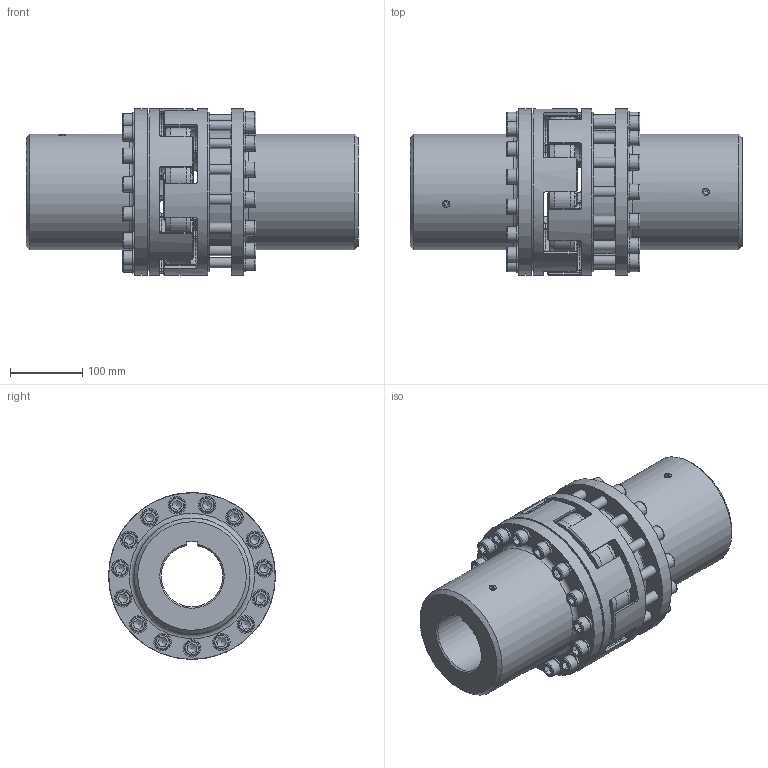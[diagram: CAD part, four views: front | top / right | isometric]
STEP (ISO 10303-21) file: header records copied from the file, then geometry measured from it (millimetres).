
FILE_DESCRIPTION(/* description */ (''),/* implementation_level */ '2;1');
FILE_NAME(/* name */ 'C:\Users\milman01\Desktop\step file\xxxxxx\34428.stp',/* time_stamp */ '2017-03-15T10:48:47+01:00',/* author */ ('milman01'),/* organization */ (''),/* preprocessor_version */ 'ST-DEVELOPER v16.1',/* originating_system */ 'Autodesk Inventor 2016',/* authorisation */ '');
FILE_SCHEMA (('AUTOMOTIVE_DESIGN { 1 0 10303 214 3 1 1 }'));
Length unit declared in the file: millimetre
Products named in the file (1): 46838_Shrinkwrap_1
Bounding box: 458.5 x 230 x 230 mm (x, y, z)
Volume: 8519543 mm3; surface area: 869553.8 mm2
Topology: 3 solids, 28 shells, 1164 faces, 2729 edges, 1696 vertices
Faces by surface type: plane 453, cylinder 342, cone 244, torus 125
Full cylindrical faces by diameter (mm): 10.106 x2, 11.835 x30, 14 x30, 15 x30, 21 x30, 24 x30, 113 x1, 114.7 x2, 160 x2, 170 x3, 220 x2, 230 x4
Entity records: 31884 total; most frequent: CARTESIAN_POINT 6058, DIRECTION 5398, ORIENTED_EDGE 4540, EDGE_CURVE 2270, AXIS2_PLACEMENT_3D 2240, EDGE_LOOP 1608, VERTEX_POINT 1540, STYLED_ITEM 1167
